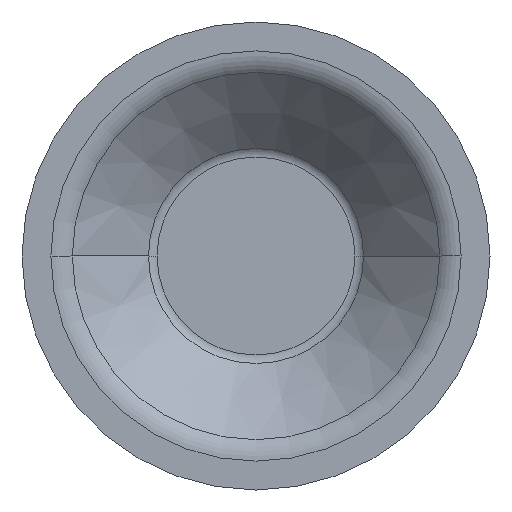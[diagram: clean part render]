
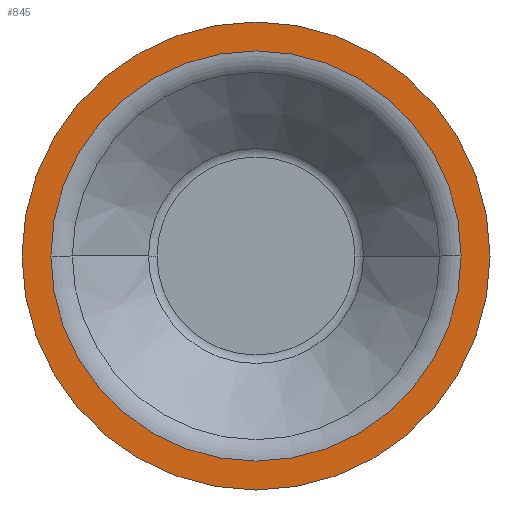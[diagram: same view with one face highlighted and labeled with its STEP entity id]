
A CAD part, front view. The second image highlights one B-rep face of the part: STEP entity #845.
In plain terms, the highlighted planar face has unit normal (0, -1, 0).
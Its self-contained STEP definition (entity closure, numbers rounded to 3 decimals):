
#62 = CIRCLE ( 'NONE', #670, 38. ) ;
#84 = ORIENTED_EDGE ( 'NONE', *, *, #867, .F. ) ;
#127 = CARTESIAN_POINT ( 'NONE',  ( 0., -17., 0. ) ) ;
#255 = AXIS2_PLACEMENT_3D ( 'NONE', #804, #294, #927 ) ;
#266 = ORIENTED_EDGE ( 'NONE', *, *, #813, .T. ) ;
#287 = DIRECTION ( 'NONE',  ( 0., -1., 0. ) ) ;
#294 = DIRECTION ( 'NONE',  ( 0., -1., 0. ) ) ;
#311 = PLANE ( 'NONE',  #1506 ) ;
#318 = VERTEX_POINT ( 'NONE', #1155 ) ;
#377 = DIRECTION ( 'NONE',  ( 1., 0., 0. ) ) ;
#445 = EDGE_LOOP ( 'NONE', ( #546, #266 ) ) ;
#546 = ORIENTED_EDGE ( 'NONE', *, *, #1278, .T. ) ;
#623 = EDGE_CURVE ( 'NONE', #737, #318, #827, .T. ) ;
#650 = CARTESIAN_POINT ( 'NONE',  ( 33.312, -17., 0. ) ) ;
#670 = AXIS2_PLACEMENT_3D ( 'NONE', #944, #711, #1210 ) ;
#704 = CIRCLE ( 'NONE', #1098, 38. ) ;
#711 = DIRECTION ( 'NONE',  ( 0., -1., 0. ) ) ;
#737 = VERTEX_POINT ( 'NONE', #650 ) ;
#753 = FACE_BOUND ( 'NONE', #850, .T. ) ;
#779 = CIRCLE ( 'NONE', #255, 33.312 ) ;
#787 = VERTEX_POINT ( 'NONE', #1408 ) ;
#804 = CARTESIAN_POINT ( 'NONE',  ( 0., -17., 0. ) ) ;
#813 = EDGE_CURVE ( 'NONE', #1059, #787, #704, .T. ) ;
#827 = CIRCLE ( 'NONE', #1462, 33.312 ) ;
#845 = ADVANCED_FACE ( 'NONE', ( #753, #1057 ), #311, .T. ) ;
#850 = EDGE_LOOP ( 'NONE', ( #84, #1595 ) ) ;
#865 = DIRECTION ( 'NONE',  ( -1., 0., 0. ) ) ;
#867 = EDGE_CURVE ( 'NONE', #318, #737, #779, .T. ) ;
#877 = CARTESIAN_POINT ( 'NONE',  ( -38., -17., 0. ) ) ;
#927 = DIRECTION ( 'NONE',  ( -1., 0., 0. ) ) ;
#944 = CARTESIAN_POINT ( 'NONE',  ( 0., -17., 0. ) ) ;
#1023 = DIRECTION ( 'NONE',  ( 0., -1., 0. ) ) ;
#1057 = FACE_OUTER_BOUND ( 'NONE', #445, .T. ) ;
#1059 = VERTEX_POINT ( 'NONE', #877 ) ;
#1098 = AXIS2_PLACEMENT_3D ( 'NONE', #1271, #1023, #377 ) ;
#1155 = CARTESIAN_POINT ( 'NONE',  ( -33.312, -17., 0. ) ) ;
#1210 = DIRECTION ( 'NONE',  ( 1., 0., 0. ) ) ;
#1271 = CARTESIAN_POINT ( 'NONE',  ( 0., -17., 0. ) ) ;
#1278 = EDGE_CURVE ( 'NONE', #787, #1059, #62, .T. ) ;
#1316 = DIRECTION ( 'NONE',  ( 1., 0., 0. ) ) ;
#1356 = DIRECTION ( 'NONE',  ( 0., -1., 0. ) ) ;
#1408 = CARTESIAN_POINT ( 'NONE',  ( 38., -17., 0. ) ) ;
#1462 = AXIS2_PLACEMENT_3D ( 'NONE', #127, #1356, #865 ) ;
#1506 = AXIS2_PLACEMENT_3D ( 'NONE', #1560, #287, #1316 ) ;
#1560 = CARTESIAN_POINT ( 'NONE',  ( 38., -17., 0. ) ) ;
#1595 = ORIENTED_EDGE ( 'NONE', *, *, #623, .F. ) ;
